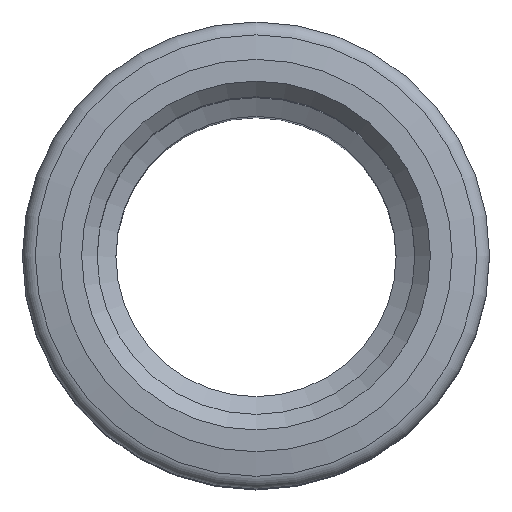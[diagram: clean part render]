
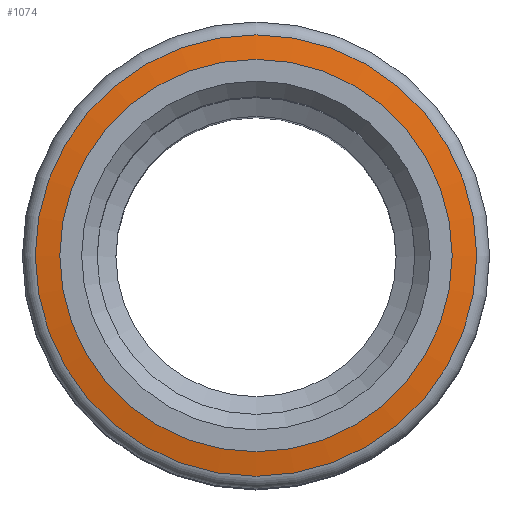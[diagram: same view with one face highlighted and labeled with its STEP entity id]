
A CAD part, top view. The second image highlights one B-rep face of the part: STEP entity #1074.
In plain terms, the highlighted conical face has half-angle 80 degrees and reference radius 7.087 mm.
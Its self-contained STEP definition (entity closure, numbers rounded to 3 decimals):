
#390=CONICAL_SURFACE('',#997,7.087,80.);
#424=ORIENTED_EDGE('',*,*,#562,.T.);
#425=ORIENTED_EDGE('',*,*,#561,.F.);
#491=CIRCLE('',#996,7.087);
#492=CIRCLE('',#998,6.3);
#526=VERTEX_POINT('',#890);
#527=VERTEX_POINT('',#893);
#561=EDGE_CURVE('',#526,#526,#491,.T.);
#562=EDGE_CURVE('',#527,#527,#492,.T.);
#599=EDGE_LOOP('',(#424));
#600=EDGE_LOOP('',(#425));
#669=FACE_BOUND('',#599,.T.);
#670=FACE_BOUND('',#600,.T.);
#745=DIRECTION('',(0.,-1.,0.));
#746=DIRECTION('',(-7.087,0.,0.));
#747=DIRECTION('',(0.,-1.,0.));
#748=DIRECTION('',(-1.,0.,0.));
#749=DIRECTION('',(0.,-1.,0.));
#750=DIRECTION('',(-6.3,0.,0.));
#890=CARTESIAN_POINT('',(79.032,121.264,0.));
#891=CARTESIAN_POINT('',(86.119,121.264,0.));
#892=CARTESIAN_POINT('',(86.119,121.264,0.));
#893=CARTESIAN_POINT('',(79.819,121.403,0.));
#894=CARTESIAN_POINT('',(86.119,121.403,0.));
#996=AXIS2_PLACEMENT_3D('',#891,#745,#746);
#997=AXIS2_PLACEMENT_3D('',#892,#747,#748);
#998=AXIS2_PLACEMENT_3D('',#894,#749,#750);
#1074=ADVANCED_FACE('',(#669,#670),#390,.T.);
